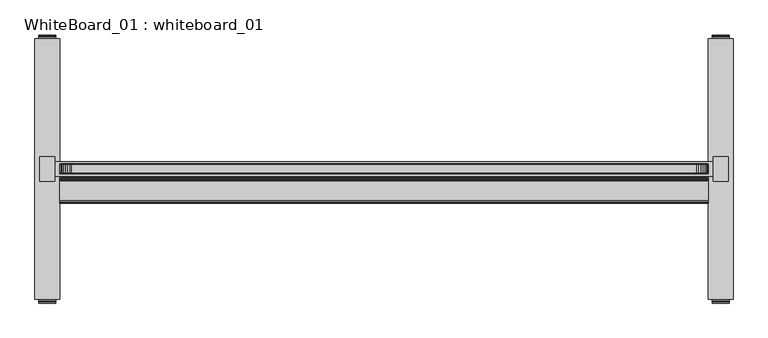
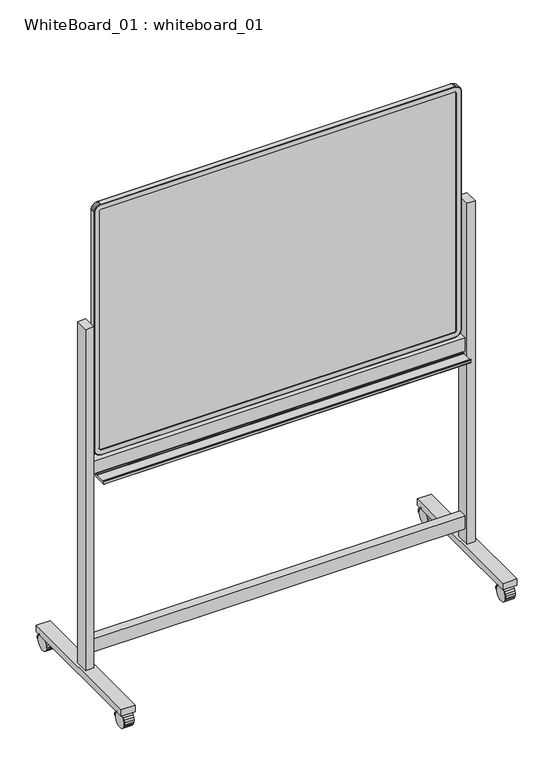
"""IFC4 building model written with IfcOpenShell, lengths in millimetres: proxy geometry, WhiteBoard_01 : whiteboard_01."""

import ifcopenshell
import ifcopenshell.guid

model = None  # the IFC model being written
_history = None  # IfcOwnerHistory: only IFC2X3 demands one
_inside = {}  # id of a spatial element -> (the spatial element, [elements in it])
_under = {}  # id of a project, library or spatial element -> (it, [spatial elements below it])
_declared = {}  # id of a project -> (the project, [libraries it declares])
_typed = {}  # id of a type object -> (the type object, [elements of that type])
_made_of = {}  # id of a material, layer set ... -> (it, [elements and type objects made of it])


def new_model(schema):
    """Start an empty IFC model of exactly this schema.

    Asked for "IFC4X3", IfcOpenShell would pick the latest addendum, in which some entities
    have other attributes; the version numbers below select the first issue.
    IFC2X3 requires an IfcOwnerHistory on every rooted entity: one is made here for all.
    """
    global model, _history
    if schema == "IFC4X3":
        model = ifcopenshell.file(schema_version=(4, 3, 0, 0))
    else:
        model = ifcopenshell.file(schema=schema)
    _inside.clear()
    _under.clear()
    _declared.clear()
    _typed.clear()
    _made_of.clear()
    _history = None
    if model.schema == "IFC2X3":
        org = make("IfcOrganization", Name="unknown")
        user = make(
            "IfcPersonAndOrganization",
            ThePerson=make("IfcPerson", FamilyName="unknown"),
            TheOrganization=org,
        )
        app = make(
            "IfcApplication",
            ApplicationDeveloper=org,
            Version="unknown",
            ApplicationFullName="unknown",
            ApplicationIdentifier="unknown",
        )
        _history = make(
            "IfcOwnerHistory",
            OwningUser=user,
            OwningApplication=app,
            ChangeAction="ADDED",
            CreationDate=0,
        )
    return model


def make(cls, **values):
    """One entity of the class cls with the attributes given. An attribute that is None is left unset."""
    return model.create_entity(
        cls, **{name: value for name, value in values.items() if value is not None}
    )


def rooted(cls, **values):
    """An entity with a GlobalId (a new one), such as an element, a storey or a relation."""
    return make(cls, GlobalId=ifcopenshell.guid.new(), OwnerHistory=_history, **values)


def si_unit(unit_type, name, prefix=None):
    """IfcSIUnit, for example si_unit("LENGTHUNIT", "METRE", prefix="MILLI")."""
    return make("IfcSIUnit", UnitType=unit_type, Prefix=prefix, Name=name)


def assignment(units):
    """IfcUnitAssignment: the units of a project."""
    return None if units is None else make("IfcUnitAssignment", Units=units)


def point(xyz):
    """IfcCartesianPoint."""
    return None if xyz is None else make("IfcCartesianPoint", Coordinates=xyz)


def direction(xyz):
    """IfcDirection."""
    return None if xyz is None else make("IfcDirection", DirectionRatios=xyz)


def frame(location, z_axis=None, x_axis=None):
    """IfcAxis2Placement3D, a coordinate frame: its origin and axes. An axis left out is left unset."""
    return make(
        "IfcAxis2Placement3D",
        Location=point(location),
        Axis=direction(z_axis),
        RefDirection=direction(x_axis),
    )


def origin():
    """The frame at (0, 0, 0) with its axes left unset."""
    return frame((0.0, 0.0, 0.0))


def place(relative_to, where):
    """IfcLocalPlacement: puts the frame where relative to a parent placement (None: the world)."""
    return make(
        "IfcLocalPlacement", PlacementRelTo=relative_to, RelativePlacement=where
    )


def context(
    kind, dimensions, precision=None, world=None, true_north=None, identifier=None
):
    """IfcGeometricRepresentationContext, for example the 3D "Model" context."""
    return make(
        "IfcGeometricRepresentationContext",
        ContextIdentifier=identifier,
        ContextType=kind,
        CoordinateSpaceDimension=dimensions,
        Precision=precision,
        WorldCoordinateSystem=world,
        TrueNorth=true_north,
    )


def project(units=None, contexts=None):
    """IfcProject with its units and contexts."""
    return rooted(
        "IfcProject",
        Name="project",
        RepresentationContexts=contexts,
        UnitsInContext=assignment(units),
    )


def spatial(cls, under=None, at=None, **own):
    """A site, building, storey or space (cls), placed at a placement, below another one or the project."""
    s = rooted(cls, ObjectPlacement=at, **own)
    if under is not None:
        _under.setdefault(under.id(), (under, []))[1].append(s)
    return s


def polyline(points):
    """IfcPolyline through the points."""
    return make("IfcPolyline", Points=[point(p) for p in points])


def outline(outer, holes=None, kind="AREA"):
    """IfcArbitraryClosedProfileDef: a profile drawn as a closed curve; with holes, ...WithVoids."""
    if holes is None:
        return make("IfcArbitraryClosedProfileDef", ProfileType=kind, OuterCurve=outer)
    return make(
        "IfcArbitraryProfileDefWithVoids",
        ProfileType=kind,
        OuterCurve=outer,
        InnerCurves=holes,
    )


def extrude(swept, where, along, depth):
    """IfcExtrudedAreaSolid: the profile swept, set in the frame where, extruded along a direction by depth."""
    return make(
        "IfcExtrudedAreaSolid",
        SweptArea=swept,
        Position=where,
        ExtrudedDirection=direction(along),
        Depth=depth,
    )


def faces_of(points, faces, orient=None, outer=None):
    """IfcFace entities. A face is a list of loops; a loop is a list of indices into points, from 0.

    orient and outer hold one flag for each loop. By default every Orientation is true, the
    first loop of a face is its IfcFaceOuterBound and the others are IfcFaceBound.
    """
    made = []
    for i, loops in enumerate(faces):
        bounds = []
        for j, loop in enumerate(loops):
            is_outer = j == 0 if outer is None else outer[i][j]
            bounds.append(
                make(
                    "IfcFaceOuterBound" if is_outer else "IfcFaceBound",
                    Bound=make("IfcPolyLoop", Polygon=[points[k] for k in loop]),
                    Orientation=True if orient is None else orient[i][j],
                )
            )
        made.append(make("IfcFace", Bounds=bounds))
    return made


def faceted_brep(points, faces, orient=None, outer=None, voids=None):
    """IfcFacetedBrep: a solid bounded by flat faces; with voids (closed shells), ...WithVoids."""
    shared = [point(p) for p in points]
    hull = make("IfcClosedShell", CfsFaces=faces_of(shared, faces, orient, outer))
    if voids is None:
        return make("IfcFacetedBrep", Outer=hull)
    return make(
        "IfcFacetedBrepWithVoids",
        Outer=hull,
        Voids=[
            make(cls, CfsFaces=faces_of(shared, fs, o, b)) for cls, fs, o, b in voids
        ],
    )


def shape(context_of_items, identifier, shape_type, items):
    """IfcShapeRepresentation: the items that make up one representation, for example the "Body"."""
    return make(
        "IfcShapeRepresentation",
        ContextOfItems=context_of_items,
        RepresentationIdentifier=identifier,
        RepresentationType=shape_type,
        Items=items,
    )


def source(mapping_origin, context_of_items, identifier, shape_type, items):
    """IfcRepresentationMap: a shape defined once, which mapped items show again and again."""
    return make(
        "IfcRepresentationMap",
        MappingOrigin=mapping_origin,
        MappedRepresentation=shape(context_of_items, identifier, shape_type, items),
    )


def transform(
    local_origin,
    x_axis=None,
    y_axis=None,
    z_axis=None,
    scale=None,
    scale2=None,
    scale3=None,
    uniform=True,
):
    """IfcCartesianTransformationOperator3D, or its non-uniform kind. x_axis, y_axis, z_axis: its Axis1, 2, 3."""
    if uniform:
        return make(
            "IfcCartesianTransformationOperator3D",
            Axis1=direction(x_axis),
            Axis2=direction(y_axis),
            LocalOrigin=point(local_origin),
            Scale=scale,
            Axis3=direction(z_axis),
        )
    return make(
        "IfcCartesianTransformationOperator3DnonUniform",
        Axis1=direction(x_axis),
        Axis2=direction(y_axis),
        LocalOrigin=point(local_origin),
        Scale=scale,
        Axis3=direction(z_axis),
        Scale2=scale2,
        Scale3=scale3,
    )


def mapped(mapping_source, mapping_target):
    """IfcMappedItem: shows the shape of a source again, moved by a transform."""
    return make(
        "IfcMappedItem", MappingSource=mapping_source, MappingTarget=mapping_target
    )


def made_of(thing, what):
    """Note that an element or type object is made of a material, layer set ...; save() writes the relation."""
    if what is not None:
        _made_of.setdefault(what.id(), (what, []))[1].append(thing)
    return thing


def element(
    cls,
    number,
    at=None,
    inside=None,
    cuts=None,
    type_object=None,
    material=None,
    context=None,
    identifier="Body",
    shape_type=None,
    held_by="IfcProductDefinitionShape",
    body=None,
    shapes=None,
    **own,
):
    """One element of the class cls, such as IfcWall. Its Tag is "e" and its number.

    at: its placement. inside: the storey or other place that contains it. cuts: it is an
    opening in that element (IfcRelVoidsElement). A single representation is given by context,
    identifier, shape_type and body (its items); several are given by shapes. held_by: the class
    of the entity that holds the representations. save() writes the other relations.
    """
    e = rooted(cls, Tag="e%d" % number, ObjectPlacement=at, **own)
    if body is not None:
        shapes = [shape(context, identifier, shape_type, body)]
    if shapes is not None:
        e.Representation = make(held_by, Representations=shapes)
    if inside is not None:
        _inside.setdefault(inside.id(), (inside, []))[1].append(e)
    if cuts is not None:
        rooted(
            "IfcRelVoidsElement", RelatingBuildingElement=cuts, RelatedOpeningElement=e
        )
    if type_object is not None:
        _typed.setdefault(type_object.id(), (type_object, []))[1].append(e)
    return made_of(e, material)


def aggregate(whole, parts):
    """IfcRelAggregates: a whole, such as a stair, and the parts it consists of."""
    return rooted("IfcRelAggregates", RelatingObject=whole, RelatedObjects=parts)


def save(model, path):
    """Write the relations noted so far, then the file.

    IfcRelAggregates (storeys below a building ...), IfcRelContainedInSpatialStructure (elements
    in a storey), IfcRelDefinesByType, IfcRelAssociatesMaterial and IfcRelDeclares: one each for
    every whole, place, type object, material and project.
    """
    for whole, parts in _under.values():
        aggregate(whole, parts)
    for where, things in _inside.values():
        rooted(
            "IfcRelContainedInSpatialStructure",
            RelatedElements=things,
            RelatingStructure=where,
        )
    for kind, things in _typed.values():
        rooted("IfcRelDefinesByType", RelatedObjects=things, RelatingType=kind)
    for what, things in _made_of.values():
        rooted("IfcRelAssociatesMaterial", RelatedObjects=things, RelatingMaterial=what)
    for by, libraries in _declared.values():
        rooted("IfcRelDeclares", RelatingContext=by, RelatedDefinitions=libraries)
    model.write(path)


def whiteboard_01_whiteboard_01_52306a3d(model_context):
    return source(origin(), model_context, "Body", "SolidModel", [
        extrude(outline(polyline([(627.0, -7.3998171), (-627.0, -7.3998171), (-627.0, 7.4001789), (627.0, 7.4001789), (627.0, -7.3998171)])), frame((0.0, 0.0, 870.0), z_axis=(0.0, 0.0, 1.0), x_axis=(1.0, 0.0, 0.0)), (0.0, 0.0, 1.0), 894.0),
        faceted_brep([(626.2518311, -9.9999201, 1756.7248068), (626.2518311, 9.9999201, 1756.7248068), (626.2518311, 9.9999201, 876.7054452), (626.2518311, -9.9999201, 876.7054452), (644.8727526, -9.7069884, 1757.6394986), (643.9884553, -9.9999201, 1757.5960604), (643.9884553, -9.9999201, 875.8341917), (644.8727526, -9.7069884, 875.7907535), (645.2386475, -8.9999726, 1757.657472), (645.2386475, -8.9999726, 875.7727801), (645.2386475, 8.9999726, 1757.657472), (645.2386475, 8.9999726, 875.7727801), (644.8727526, 9.7069884, 1757.6394986), (644.8727526, 9.7069884, 875.7907535), (643.9884553, 9.9999201, 1757.5960604), (643.9884553, 9.9999201, 875.8341917), (620.0012361, -9.9999201, 870.4566193), (620.0012361, 9.9999201, 870.4566193), (-620.0012361, 9.9999201, 870.4566193), (-620.0012361, -9.9999201, 870.4566193), (620.916285, -9.7069884, 851.8356977), (620.8728299, -9.9999201, 852.719995), (-620.8728299, -9.9999201, 852.719995), (-620.916285, -9.7069884, 851.8356977), (620.9342654, -8.9999726, 851.4698029), (-620.9342654, -8.9999726, 851.4698029), (620.9342654, 8.9999726, 851.4698029), (-620.9342654, 8.9999726, 851.4698029), (620.916285, 9.7069884, 851.8356977), (-620.916285, 9.7069884, 851.8356977), (620.8728299, 9.9999201, 852.719995), (-620.8728299, 9.9999201, 852.719995), (-626.2498474, -9.9999201, 876.6853029), (-626.2498474, 9.9999201, 876.6853029), (-626.2498474, 9.9999201, 1756.7449492), (-626.2498474, -9.9999201, 1756.7449492), (-644.870769, -9.7069884, 875.7706111), (-643.9864717, -9.9999201, 875.8140493), (-643.9864717, -9.9999201, 1757.6162028), (-644.870769, -9.7069884, 1757.659641), (-645.2366638, -8.9999726, 875.7526377), (-645.2366638, -8.9999726, 1757.6776143), (-645.2366638, 8.9999726, 875.7526377), (-645.2366638, 8.9999726, 1757.6776143), (-644.870769, 9.7069884, 875.7706111), (-644.870769, 9.7069884, 1757.659641), (-643.9864717, 9.9999201, 875.8140493), (-643.9864717, 9.9999201, 1757.6162028), (-620.137531, -9.9999201, 1762.9602051), (-620.137531, 9.9999201, 1762.9602051), (620.137531, 9.9999201, 1762.9602051), (620.137531, -9.9999201, 1762.9602051), (-621.0525799, -9.7069884, 1781.5811266), (-621.0091248, -9.9999201, 1780.6968293), (621.0091248, -9.9999201, 1780.6968293), (621.0525799, -9.7069884, 1781.5811266), (-621.0705603, -8.9999726, 1781.9470215), (621.0705603, -8.9999726, 1781.9470215), (-621.0705603, 8.9999726, 1781.9470215), (621.0705603, 8.9999726, 1781.9470215), (-621.0525799, 9.7069884, 1781.5811266), (621.0525799, 9.7069884, 1781.5811266), (-621.0091248, 9.9999201, 1780.6968293), (621.0091248, 9.9999201, 1780.6968293), (621.2216949, 9.9999201, 1762.8533936), (621.2216949, -9.9999201, 1762.8533936), (624.698271, -9.9999201, 1780.3333757), (624.8716031, -9.7069884, 1781.2048776), (624.9433226, -8.9999726, 1781.565478), (624.9433226, 8.9999726, 1781.565478), (624.8716031, 9.7069884, 1781.2048776), (624.698271, 9.9999201, 1780.3333757), (622.3940277, 9.9999201, 1762.4978638), (622.3940277, -9.9999201, 1762.4978638), (629.2149914, -9.9999201, 1778.9636036), (629.5550651, -9.7069884, 1779.7845383), (629.6957771, -8.9999726, 1780.1242156), (629.6957771, 8.9999726, 1780.1242156), (629.5550651, 9.7069884, 1779.7845383), (629.2149914, 9.9999201, 1778.9636036), (623.4744644, 9.9999201, 1761.920166), (623.4744644, -9.9999201, 1761.920166), (633.3760249, -9.9999201, 1776.7387443), (633.8696883, -9.7069884, 1777.4775562), (634.073951, -8.9999726, 1777.7832537), (634.073951, 8.9999726, 1777.7832537), (633.8696883, 9.7069884, 1777.4775562), (633.3760249, 9.9999201, 1776.7387443), (624.421463, 9.9999201, 1761.1431885), (624.421463, -9.9999201, 1761.1431885), (637.0239514, -9.9999201, 1773.7457547), (637.6522754, -9.7069884, 1774.3740826), (637.9122564, -8.9999726, 1774.6340652), (637.9122564, 8.9999726, 1774.6340652), (637.6522754, 9.7069884, 1774.3740826), (637.0239514, 9.9999201, 1773.7457547), (625.1986694, 9.9999201, 1760.1959229), (625.1986694, -9.9999201, 1760.1959229), (640.0175953, -9.9999201, 1770.0970767), (640.7564245, -9.7069884, 1770.5907198), (641.0621292, -8.9999726, 1770.7949741), (641.0621292, 8.9999726, 1770.7949741), (640.7564245, 9.7069884, 1770.5907198), (640.0175953, 9.9999201, 1770.0970767), (625.7762146, 9.9999201, 1759.1156006), (625.7762146, -9.9999201, 1759.1156006), (642.2417212, -9.9999201, 1765.9367566), (643.0626442, -9.7069884, 1766.2768399), (643.4023168, -8.9999726, 1766.4175559), (643.4023168, 8.9999726, 1766.4175559), (643.0626442, 9.7069884, 1766.2768399), (642.2417212, 9.9999201, 1765.9367566), (626.1318207, 9.9999201, 1757.9434204), (626.1318207, -9.9999201, 1757.9434204), (643.6118182, -9.9999201, 1761.4205218), (644.4833209, -9.7069884, 1761.5938801), (644.8439217, -8.9999726, 1761.6656104), (644.8439217, 8.9999726, 1761.6656104), (644.4833209, 9.7069884, 1761.5938801), (643.6118182, 9.9999201, 1761.4205218), (626.1318207, 9.9999201, 875.4868317), (626.1318207, -9.9999201, 875.4868317), (643.6118182, -9.9999201, 872.0097303), (644.4833209, -9.7069884, 871.836372), (644.8439217, -8.9999726, 871.7646417), (644.8439217, 8.9999726, 871.7646417), (644.4833209, 9.7069884, 871.836372), (643.6118182, 9.9999201, 872.0097303), (625.7762146, 9.9999201, 874.3146515), (625.7762146, -9.9999201, 874.3146515), (642.2417212, -9.9999201, 867.4934954), (643.0626442, -9.7069884, 867.1534121), (643.4023168, -8.9999726, 867.0126962), (643.4023168, 8.9999726, 867.0126962), (643.0626442, 9.7069884, 867.1534121), (642.2417212, 9.9999201, 867.4934954), (625.1986694, 9.9999201, 873.2343292), (625.1986694, -9.9999201, 873.2343292), (640.0175953, -9.9999201, 863.3331754), (640.7564245, -9.7069884, 862.8395322), (641.0621292, -8.9999726, 862.635278), (641.0621292, 8.9999726, 862.635278), (640.7564245, 9.7069884, 862.8395322), (640.0175953, 9.9999201, 863.3331754), (624.421463, 9.9999201, 872.2870636), (624.421463, -9.9999201, 872.2870636), (637.0239514, -9.9999201, 859.6844974), (637.6522754, -9.7069884, 859.0561695), (637.9122564, -8.9999726, 858.7961869), (637.9122564, 8.9999726, 858.7961869), (637.6522754, 9.7069884, 859.0561695), (637.0239514, 9.9999201, 859.6844974), (623.4744644, 9.9999201, 871.5100861), (623.4744644, -9.9999201, 871.5100861), (633.3760249, -9.9999201, 856.6915078), (633.8696883, -9.7069884, 855.9526959), (634.073951, -8.9999726, 855.6469984), (634.073951, 8.9999726, 855.6469984), (633.8696883, 9.7069884, 855.9526959), (633.3760249, 9.9999201, 856.6915078), (622.3940277, 9.9999201, 870.9323883), (622.3940277, -9.9999201, 870.9323883), (629.2149914, -9.9999201, 854.4666484), (629.5550651, -9.7069884, 853.6457138), (629.6957771, -8.9999726, 853.3060364), (629.6957771, 8.9999726, 853.3060364), (629.5550651, 9.7069884, 853.6457138), (629.2149914, 9.9999201, 854.4666484), (621.2216949, 9.9999201, 870.5768585), (621.2216949, -9.9999201, 870.5768585), (624.698271, -9.9999201, 853.0968764), (624.8716031, -9.7069884, 852.2253745), (624.9433226, -8.9999726, 851.864774), (624.9433226, 8.9999726, 851.864774), (624.8716031, 9.7069884, 852.2253745), (624.698271, 9.9999201, 853.0968764), (-621.2216949, 9.9999201, 870.5768585), (-621.2216949, -9.9999201, 870.5768585), (-624.698271, -9.9999201, 853.0968764), (-624.8716031, -9.7069884, 852.2253745), (-624.9433226, -8.9999726, 851.864774), (-624.9433226, 8.9999726, 851.864774), (-624.8716031, 9.7069884, 852.2253745), (-624.698271, 9.9999201, 853.0968764), (-622.3940277, 9.9999201, 870.9323883), (-622.3940277, -9.9999201, 870.9323883), (-629.2149914, -9.9999201, 854.4666484), (-629.5550651, -9.7069884, 853.6457138), (-629.6957771, -8.9999726, 853.3060364), (-629.6957771, 8.9999726, 853.3060364), (-629.5550651, 9.7069884, 853.6457138), (-629.2149914, 9.9999201, 854.4666484), (-623.4744644, 9.9999201, 871.5100861), (-623.4744644, -9.9999201, 871.5100861), (-633.3760249, -9.9999201, 856.6915078), (-633.8696883, -9.7069884, 855.9526959), (-634.073951, -8.9999726, 855.6469984), (-634.073951, 8.9999726, 855.6469984), (-633.8696883, 9.7069884, 855.9526959), (-633.3760249, 9.9999201, 856.6915078), (-624.421463, 9.9999201, 872.2870636), (-624.421463, -9.9999201, 872.2870636), (-637.0239514, -9.9999201, 859.6844974), (-637.6522754, -9.7069884, 859.0561695), (-637.9122564, -8.9999726, 858.7961869), (-637.9122564, 8.9999726, 858.7961869), (-637.6522754, 9.7069884, 859.0561695), (-637.0239514, 9.9999201, 859.6844974), (-625.1986694, 9.9999201, 873.2343292), (-625.1986694, -9.9999201, 873.2343292), (-640.0175953, -9.9999201, 863.3331754), (-640.7564245, -9.7069884, 862.8395322), (-641.0621292, -8.9999726, 862.635278), (-641.0621292, 8.9999726, 862.635278), (-640.7564245, 9.7069884, 862.8395322), (-640.0175953, 9.9999201, 863.3331754), (-625.7762146, 9.9999201, 874.3146515), (-625.7762146, -9.9999201, 874.3146515), (-642.2417212, -9.9999201, 867.4934954), (-643.0626442, -9.7069884, 867.1534121), (-643.4023168, -8.9999726, 867.0126962), (-643.4023168, 8.9999726, 867.0126962), (-643.0626442, 9.7069884, 867.1534121), (-642.2417212, 9.9999201, 867.4934954), (-626.1318207, 9.9999201, 875.4868317), (-626.1318207, -9.9999201, 875.4868317), (-643.6118182, -9.9999201, 872.0097303), (-644.4833209, -9.7069884, 871.836372), (-644.8439217, -8.9999726, 871.7646417), (-644.8439217, 8.9999726, 871.7646417), (-644.4833209, 9.7069884, 871.836372), (-643.6118182, 9.9999201, 872.0097303), (-626.1318207, 9.9999201, 1757.9434204), (-626.1318207, -9.9999201, 1757.9434204), (-643.6118182, -9.9999201, 1761.4205218), (-644.4833209, -9.7069884, 1761.5938801), (-644.8439217, -8.9999726, 1761.6656104), (-644.8439217, 8.9999726, 1761.6656104), (-644.4833209, 9.7069884, 1761.5938801), (-643.6118182, 9.9999201, 1761.4205218), (-625.7762146, 9.9999201, 1759.1156006), (-625.7762146, -9.9999201, 1759.1156006), (-642.2417212, -9.9999201, 1765.9367566), (-643.0626442, -9.7069884, 1766.2768399), (-643.4023168, -8.9999726, 1766.4175559), (-643.4023168, 8.9999726, 1766.4175559), (-643.0626442, 9.7069884, 1766.2768399), (-642.2417212, 9.9999201, 1765.9367566), (-625.1986694, 9.9999201, 1760.1959229), (-625.1986694, -9.9999201, 1760.1959229), (-640.0175953, -9.9999201, 1770.0970767), (-640.7564245, -9.7069884, 1770.5907198), (-641.0621292, -8.9999726, 1770.7949741), (-641.0621292, 8.9999726, 1770.7949741), (-640.7564245, 9.7069884, 1770.5907198), (-640.0175953, 9.9999201, 1770.0970767), (-624.421463, 9.9999201, 1761.1431885), (-624.421463, -9.9999201, 1761.1431885), (-637.0239514, -9.9999201, 1773.7457547), (-637.6522754, -9.7069884, 1774.3740826), (-637.9122564, -8.9999726, 1774.6340652), (-637.9122564, 8.9999726, 1774.6340652), (-637.6522754, 9.7069884, 1774.3740826), (-637.0239514, 9.9999201, 1773.7457547), (-623.4744644, 9.9999201, 1761.920166), (-623.4744644, -9.9999201, 1761.920166), (-633.3760249, -9.9999201, 1776.7387443), (-633.8696883, -9.7069884, 1777.4775562), (-634.073951, -8.9999726, 1777.7832537), (-634.073951, 8.9999726, 1777.7832537), (-633.8696883, 9.7069884, 1777.4775562), (-633.3760249, 9.9999201, 1776.7387443), (-622.3940277, 9.9999201, 1762.4978638), (-622.3940277, -9.9999201, 1762.4978638), (-629.2149914, -9.9999201, 1778.9636036), (-629.5550651, -9.7069884, 1779.7845383), (-629.6957771, -8.9999726, 1780.1242156), (-629.6957771, 8.9999726, 1780.1242156), (-629.5550651, 9.7069884, 1779.7845383), (-629.2149914, 9.9999201, 1778.9636036), (-621.2216949, 9.9999201, 1762.8533936), (-621.2216949, -9.9999201, 1762.8533936), (-624.698271, -9.9999201, 1780.3333757), (-624.8716031, -9.7069884, 1781.2048776), (-624.9433226, -8.9999726, 1781.565478), (-624.9433226, 8.9999726, 1781.565478), (-624.8716031, 9.7069884, 1781.2048776), (-624.698271, 9.9999201, 1780.3333757)], [[[0, 1, 2, 3]], [[4, 5, 6, 7]], [[8, 4, 7, 9]], [[10, 8, 9, 11]], [[12, 10, 11, 13]], [[14, 12, 13, 15]], [[16, 17, 18, 19]], [[20, 21, 22, 23]], [[24, 20, 23, 25]], [[26, 24, 25, 27]], [[28, 26, 27, 29]], [[30, 28, 29, 31]], [[32, 33, 34, 35]], [[36, 37, 38, 39]], [[40, 36, 39, 41]], [[42, 40, 41, 43]], [[44, 42, 43, 45]], [[46, 44, 45, 47]], [[48, 49, 50, 51]], [[52, 53, 54, 55]], [[56, 52, 55, 57]], [[58, 56, 57, 59]], [[60, 58, 59, 61]], [[62, 60, 61, 63]], [[51, 50, 64, 65]], [[55, 54, 66, 67]], [[57, 55, 67, 68]], [[59, 57, 68, 69]], [[61, 59, 69, 70]], [[63, 61, 70, 71]], [[65, 64, 72, 73]], [[67, 66, 74, 75]], [[68, 67, 75, 76]], [[69, 68, 76, 77]], [[70, 69, 77, 78]], [[71, 70, 78, 79]], [[73, 72, 80, 81]], [[75, 74, 82, 83]], [[76, 75, 83, 84]], [[77, 76, 84, 85]], [[78, 77, 85, 86]], [[79, 78, 86, 87]], [[81, 80, 88, 89]], [[83, 82, 90, 91]], [[84, 83, 91, 92]], [[85, 84, 92, 93]], [[86, 85, 93, 94]], [[87, 86, 94, 95]], [[89, 88, 96, 97]], [[91, 90, 98, 99]], [[92, 91, 99, 100]], [[93, 92, 100, 101]], [[94, 93, 101, 102]], [[95, 94, 102, 103]], [[97, 96, 104, 105]], [[99, 98, 106, 107]], [[100, 99, 107, 108]], [[101, 100, 108, 109]], [[102, 101, 109, 110]], [[103, 102, 110, 111]], [[105, 104, 112, 113]], [[107, 106, 114, 115]], [[108, 107, 115, 116]], [[109, 108, 116, 117]], [[110, 109, 117, 118]], [[111, 110, 118, 119]], [[113, 112, 1, 0]], [[115, 114, 5, 4]], [[116, 115, 4, 8]], [[117, 116, 8, 10]], [[118, 117, 10, 12]], [[119, 118, 12, 14]], [[3, 2, 120, 121]], [[7, 6, 122, 123]], [[9, 7, 123, 124]], [[11, 9, 124, 125]], [[13, 11, 125, 126]], [[15, 13, 126, 127]], [[121, 120, 128, 129]], [[123, 122, 130, 131]], [[124, 123, 131, 132]], [[125, 124, 132, 133]], [[126, 125, 133, 134]], [[127, 126, 134, 135]], [[129, 128, 136, 137]], [[131, 130, 138, 139]], [[132, 131, 139, 140]], [[133, 132, 140, 141]], [[134, 133, 141, 142]], [[135, 134, 142, 143]], [[137, 136, 144, 145]], [[139, 138, 146, 147]], [[140, 139, 147, 148]], [[141, 140, 148, 149]], [[142, 141, 149, 150]], [[143, 142, 150, 151]], [[145, 144, 152, 153]], [[147, 146, 154, 155]], [[148, 147, 155, 156]], [[149, 148, 156, 157]], [[150, 149, 157, 158]], [[151, 150, 158, 159]], [[153, 152, 160, 161]], [[155, 154, 162, 163]], [[156, 155, 163, 164]], [[157, 156, 164, 165]], [[158, 157, 165, 166]], [[159, 158, 166, 167]], [[161, 160, 168, 169]], [[163, 162, 170, 171]], [[164, 163, 171, 172]], [[165, 164, 172, 173]], [[166, 165, 173, 174]], [[167, 166, 174, 175]], [[169, 168, 17, 16]], [[171, 170, 21, 20]], [[172, 171, 20, 24]], [[173, 172, 24, 26]], [[174, 173, 26, 28]], [[175, 174, 28, 30]], [[19, 18, 176, 177]], [[23, 22, 178, 179]], [[25, 23, 179, 180]], [[27, 25, 180, 181]], [[29, 27, 181, 182]], [[31, 29, 182, 183]], [[177, 176, 184, 185]], [[179, 178, 186, 187]], [[180, 179, 187, 188]], [[181, 180, 188, 189]], [[182, 181, 189, 190]], [[183, 182, 190, 191]], [[185, 184, 192, 193]], [[187, 186, 194, 195]], [[188, 187, 195, 196]], [[189, 188, 196, 197]], [[190, 189, 197, 198]], [[191, 190, 198, 199]], [[193, 192, 200, 201]], [[195, 194, 202, 203]], [[196, 195, 203, 204]], [[197, 196, 204, 205]], [[198, 197, 205, 206]], [[199, 198, 206, 207]], [[201, 200, 208, 209]], [[203, 202, 210, 211]], [[204, 203, 211, 212]], [[205, 204, 212, 213]], [[206, 205, 213, 214]], [[207, 206, 214, 215]], [[209, 208, 216, 217]], [[211, 210, 218, 219]], [[212, 211, 219, 220]], [[213, 212, 220, 221]], [[214, 213, 221, 222]], [[215, 214, 222, 223]], [[217, 216, 224, 225]], [[219, 218, 226, 227]], [[220, 219, 227, 228]], [[221, 220, 228, 229]], [[222, 221, 229, 230]], [[223, 222, 230, 231]], [[225, 224, 33, 32]], [[227, 226, 37, 36]], [[228, 227, 36, 40]], [[229, 228, 40, 42]], [[230, 229, 42, 44]], [[231, 230, 44, 46]], [[35, 34, 232, 233]], [[39, 38, 234, 235]], [[41, 39, 235, 236]], [[43, 41, 236, 237]], [[45, 43, 237, 238]], [[47, 45, 238, 239]], [[233, 232, 240, 241]], [[235, 234, 242, 243]], [[236, 235, 243, 244]], [[237, 236, 244, 245]], [[238, 237, 245, 246]], [[239, 238, 246, 247]], [[241, 240, 248, 249]], [[243, 242, 250, 251]], [[244, 243, 251, 252]], [[245, 244, 252, 253]], [[246, 245, 253, 254]], [[247, 246, 254, 255]], [[249, 248, 256, 257]], [[251, 250, 258, 259]], [[252, 251, 259, 260]], [[253, 252, 260, 261]], [[254, 253, 261, 262]], [[255, 254, 262, 263]], [[257, 256, 264, 265]], [[259, 258, 266, 267]], [[260, 259, 267, 268]], [[261, 260, 268, 269]], [[262, 261, 269, 270]], [[263, 262, 270, 271]], [[265, 264, 272, 273]], [[267, 266, 274, 275]], [[268, 267, 275, 276]], [[269, 268, 276, 277]], [[270, 269, 277, 278]], [[271, 270, 278, 279]], [[273, 272, 280, 281]], [[275, 274, 282, 283]], [[276, 275, 283, 284]], [[277, 276, 284, 285]], [[278, 277, 285, 286]], [[279, 278, 286, 287]], [[281, 280, 49, 48]], [[53, 282, 274, 266, 258, 250, 242, 234, 38, 37, 226, 218, 210, 202, 194, 186, 178, 22, 21, 170, 162, 154, 146, 138, 130, 122, 6, 5, 114, 106, 98, 90, 82, 74, 66, 54], [265, 273, 281, 48, 51, 65, 73, 81, 89, 97, 105, 113, 0, 3, 121, 129, 137, 145, 153, 161, 169, 16, 19, 177, 185, 193, 201, 209, 217, 225, 32, 35, 233, 241, 249, 257]], [[283, 282, 53, 52]], [[284, 283, 52, 56]], [[285, 284, 56, 58]], [[286, 285, 58, 60]], [[287, 286, 60, 62]], [[271, 279, 287, 62, 63, 71, 79, 87, 95, 103, 111, 119, 14, 15, 127, 135, 143, 151, 159, 167, 175, 30, 31, 183, 191, 199, 207, 215, 223, 231, 46, 47, 239, 247, 255, 263], [49, 280, 272, 264, 256, 248, 240, 232, 34, 33, 224, 216, 208, 200, 192, 184, 176, 18, 17, 168, 160, 152, 144, 136, 128, 120, 2, 1, 112, 104, 96, 88, 80, 72, 64, 50]]]),
        extrude(outline(polyline([(684.4999695, 24.5001531), (684.4999695, -24.9998391), (655.4998779, -24.9998391), (655.4998779, 24.5001531), (684.4999695, 24.5001531)])), frame((0.0, 0.0, 81.7445183), z_axis=(0.0, 0.0, 1.0), x_axis=(1.0, 0.0, 0.0)), (0.0, 0.0, 1.0), 1265.5000496),
        extrude(outline(polyline([(-684.4999695, 24.5001531), (-655.4998779, 24.5001531), (-655.4998779, -24.9998391), (-684.4999695, -24.9998391), (-684.4999695, 24.5001531)])), frame((0.0, 0.0, 81.7445183), z_axis=(0.0, 0.0, 1.0), x_axis=(1.0, 0.0, 0.0)), (0.0, 0.0, 1.0), 1265.5000496),
        extrude(outline(polyline([(-19.7846854, 784.5305634), (-65.7649469, 784.5305634), (-67.1861124, 785.1194), (-67.7747965, 786.5406036), (-67.7747965, 794.5807648), (-67.0426416, 796.3488007), (-65.2747965, 797.0809937), (-63.5069513, 796.3488007), (-62.7747965, 794.5807648), (-62.7747965, 792.8308868), (-62.0248652, 792.0809174), (-23.5247302, 792.0809174), (-22.7747989, 792.8308868), (-22.7747989, 794.5807648), (-22.042644, 796.3488007), (-20.2747989, 797.0809937), (-18.5069525, 796.3488007), (-17.7747977, 794.5807648), (-17.7747977, 786.5406036), (-18.3634818, 785.1194), (-19.7846854, 784.5305634)])), frame((-644.9999237, 0.0, 0.0), z_axis=(1.0, 0.0, 0.0), x_axis=(0.0, 1.0, 0.0)), (0.0, 0.0, 1.0), 1289.9998474),
        extrude(outline(polyline([(655.0, 14.5002067), (655.0, -14.4998968), (-655.0, -14.4998968), (-655.0, 14.5002067), (655.0, 14.5002067)])), frame((0.0, 0.0, 792.2081757), z_axis=(0.0, 0.0, 1.0), x_axis=(1.0, 0.0, 0.0)), (0.0, 0.0, 1.0), 49.0000916),
        extrude(outline(polyline([(655.0, 14.5002067), (655.0, -14.4998968), (-655.0, -14.4998968), (-655.0, 14.5002067), (655.0, 14.5002067)])), frame((0.0, 0.0, 132.744379), z_axis=(0.0, 0.0, 1.0), x_axis=(1.0, 0.0, 0.0)), (0.0, 0.0, 1.0), 49.0001011),
        extrude(outline(polyline([(206.8230053, 34.7678423), (209.8573875, 42.0934289), (214.6845054, 48.3842303), (220.9747505, 53.2110596), (228.3003426, 56.2454128), (236.1616707, 57.280364), (244.0229988, 56.2453842), (251.3482857, 53.2110882), (257.6389503, 48.3841467), (262.4659348, 42.0935535), (265.5002975, 34.7679758), (266.5352058, 27.1661568), (264.563961, 26.9066858), (263.5962105, 34.2578077), (260.7588005, 41.1079311), (256.245079, 46.9902611), (250.3626633, 51.5039396), (243.5128021, 54.3413162), (236.1616707, 55.309124), (228.8105202, 54.3413353), (221.9603729, 51.5039206), (216.0783957, 46.990359), (211.5645218, 41.1078065), (208.7270933, 34.257636), (207.7593687, 26.9067353), (205.7881242, 27.1662777), (206.8230053, 34.7678423)])), frame((-686.727829, 0.0, 0.0), z_axis=(1.0, 0.0, 0.0), x_axis=(0.0, 1.0, 0.0)), (0.0, 0.0, 1.0), 34.11026),
        extrude(outline(polyline([(243.1257412, 52.8974015), (249.615335, 50.2093238), (255.1880755, 45.9332096), (259.4641897, 40.360469), (262.1522675, 33.8708752), (263.0691208, 26.9066832), (262.1522675, 19.9424913), (259.4641897, 13.4528975), (255.1880755, 7.8801569), (249.615335, 3.6040427), (243.1257412, 0.9159649), (236.1615492, -0.0008883), (229.1973572, 0.9159649), (222.7077634, 3.6040427), (217.1350229, 7.8801569), (212.8589087, 13.4528975), (210.1708309, 19.9424913), (209.2539776, 26.9066832), (210.1708309, 33.8708752), (212.8589087, 40.360469), (217.1350229, 45.9332096), (222.7077634, 50.2093238), (229.1973572, 52.8974015), (236.1615492, 53.8142548), (243.1257412, 52.8974015)])), frame((-685.8278656, 0.0, 0.0), z_axis=(1.0, 0.0, 0.0), x_axis=(0.0, 1.0, 0.0)), (0.0, 0.0, 1.0), 32.3104095),
        extrude(outline(polyline([(-206.8230053, 34.7678423), (-205.7881242, 27.1662777), (-207.7593687, 26.9067353), (-208.7270933, 34.257636), (-211.5645218, 41.1078065), (-216.0783957, 46.990359), (-221.9603729, 51.5039206), (-228.8105202, 54.3413353), (-236.1616707, 55.309124), (-243.5128021, 54.3413162), (-250.3626633, 51.5039396), (-256.245079, 46.9902611), (-260.7588005, 41.1079311), (-263.5962105, 34.2578077), (-264.563961, 26.9066858), (-266.5352058, 27.1661568), (-265.5002975, 34.7679758), (-262.4659348, 42.0935535), (-257.6389503, 48.3841467), (-251.3482857, 53.2110882), (-244.0229988, 56.2453842), (-236.1616707, 57.280364), (-228.3003426, 56.2454128), (-220.9747505, 53.2110596), (-214.6845054, 48.3842303), (-209.8573875, 42.0934289), (-206.8230053, 34.7678423)])), frame((-686.727829, 0.0, 0.0), z_axis=(1.0, 0.0, 0.0), x_axis=(0.0, 1.0, 0.0)), (0.0, 0.0, 1.0), 34.11026),
        extrude(outline(polyline([(-243.1257412, 52.8974015), (-236.1615492, 53.8142548), (-229.1973572, 52.8974015), (-222.7077634, 50.2093238), (-217.1350229, 45.9332096), (-212.8589087, 40.360469), (-210.1708309, 33.8708752), (-209.2539776, 26.9066832), (-210.1708309, 19.9424913), (-212.8589087, 13.4528975), (-217.1350229, 7.8801569), (-222.7077634, 3.6040427), (-229.1973572, 0.9159649), (-236.1615492, -0.0008883), (-243.1257412, 0.9159649), (-249.615335, 3.6040427), (-255.1880755, 7.8801569), (-259.4641897, 13.4528975), (-262.1522675, 19.9424913), (-263.0691208, 26.9066832), (-262.1522675, 33.8708752), (-259.4641897, 40.360469), (-255.1880755, 45.9332096), (-249.615335, 50.2093238), (-243.1257412, 52.8974015)])), frame((-685.8278656, 0.0, 0.0), z_axis=(1.0, 0.0, 0.0), x_axis=(0.0, 1.0, 0.0)), (0.0, 0.0, 1.0), 32.3104095),
        extrude(outline(polyline([(206.8230053, 34.7678423), (209.8573875, 42.0934289), (214.6845054, 48.3842303), (220.9747505, 53.2110596), (228.3003426, 56.2454128), (236.1616707, 57.280364), (244.0229988, 56.2453842), (251.3482857, 53.2110882), (257.6389503, 48.3841467), (262.4659348, 42.0935535), (265.5002975, 34.7679758), (266.5352058, 27.1661568), (264.563961, 26.9066858), (263.5962105, 34.2578077), (260.7588005, 41.1079311), (256.245079, 46.9902611), (250.3626633, 51.5039396), (243.5128021, 54.3413162), (236.1616707, 55.309124), (228.8105202, 54.3413353), (221.9603729, 51.5039206), (216.0783957, 46.990359), (211.5645218, 41.1078065), (208.7270933, 34.257636), (207.7593687, 26.9067353), (205.7881242, 27.1662777), (206.8230053, 34.7678423)])), frame((652.617569, 0.0, 0.0), z_axis=(1.0, 0.0, 0.0), x_axis=(0.0, 1.0, 0.0)), (0.0, 0.0, 1.0), 34.11026),
        extrude(outline(polyline([(243.1257412, 52.8974015), (249.615335, 50.2093238), (255.1880755, 45.9332096), (259.4641897, 40.360469), (262.1522675, 33.8708752), (263.0691208, 26.9066832), (262.1522675, 19.9424913), (259.4641897, 13.4528975), (255.1880755, 7.8801569), (249.615335, 3.6040427), (243.1257412, 0.9159649), (236.1615492, -0.0008883), (229.1973572, 0.9159649), (222.7077634, 3.6040427), (217.1350229, 7.8801569), (212.8589087, 13.4528975), (210.1708309, 19.9424913), (209.2539776, 26.9066832), (210.1708309, 33.8708752), (212.8589087, 40.360469), (217.1350229, 45.9332096), (222.7077634, 50.2093238), (229.1973572, 52.8974015), (236.1615492, 53.8142548), (243.1257412, 52.8974015)])), frame((653.5174561, 0.0, 0.0), z_axis=(1.0, 0.0, 0.0), x_axis=(0.0, 1.0, 0.0)), (0.0, 0.0, 1.0), 32.3104095),
        extrude(outline(polyline([(-206.8230053, 34.7678423), (-205.7881242, 27.1662777), (-207.7593687, 26.9067353), (-208.7270933, 34.257636), (-211.5645218, 41.1078065), (-216.0783957, 46.990359), (-221.9603729, 51.5039206), (-228.8105202, 54.3413353), (-236.1616707, 55.309124), (-243.5128021, 54.3413162), (-250.3626633, 51.5039396), (-256.245079, 46.9902611), (-260.7588005, 41.1079311), (-263.5962105, 34.2578077), (-264.563961, 26.9066858), (-266.5352058, 27.1661568), (-265.5002975, 34.7679758), (-262.4659348, 42.0935535), (-257.6389503, 48.3841467), (-251.3482857, 53.2110882), (-244.0229988, 56.2453842), (-236.1616707, 57.280364), (-228.3003426, 56.2454128), (-220.9747505, 53.2110596), (-214.6845054, 48.3842303), (-209.8573875, 42.0934289), (-206.8230053, 34.7678423)])), frame((652.617569, 0.0, 0.0), z_axis=(1.0, 0.0, 0.0), x_axis=(0.0, 1.0, 0.0)), (0.0, 0.0, 1.0), 34.11026),
        extrude(outline(polyline([(-243.1257412, 52.8974015), (-236.1615492, 53.8142548), (-229.1973572, 52.8974015), (-222.7077634, 50.2093238), (-217.1350229, 45.9332096), (-212.8589087, 40.360469), (-210.1708309, 33.8708752), (-209.2539776, 26.9066832), (-210.1708309, 19.9424913), (-212.8589087, 13.4528975), (-217.1350229, 7.8801569), (-222.7077634, 3.6040427), (-229.1973572, 0.9159649), (-236.1615492, -0.0008883), (-243.1257412, 0.9159649), (-249.615335, 3.6040427), (-255.1880755, 7.8801569), (-259.4641897, 13.4528975), (-262.1522675, 19.9424913), (-263.0691208, 26.9066832), (-262.1522675, 33.8708752), (-259.4641897, 40.360469), (-255.1880755, 45.9332096), (-249.615335, 50.2093238), (-243.1257412, 52.8974015)])), frame((653.5174561, 0.0, 0.0), z_axis=(1.0, 0.0, 0.0), x_axis=(0.0, 1.0, 0.0)), (0.0, 0.0, 1.0), 32.3104095),
        extrude(outline(polyline([(-645.4999542, -259.4642258), (-694.5000458, -259.4642258), (-694.5000458, 259.5), (-645.4999542, 259.5), (-645.4999542, -259.4642258)])), frame((0.0, 0.0, 57.7444267), z_axis=(0.0, 0.0, 1.0), x_axis=(1.0, 0.0, 0.0)), (0.0, 0.0, 1.0), 24.0000725),
        extrude(outline(polyline([(694.5000458, -259.4642258), (645.4999542, -259.4642258), (645.4999542, 259.5), (694.5000458, 259.5), (694.5000458, -259.4642258)])), frame((0.0, 0.0, 57.7444267), z_axis=(0.0, 0.0, 1.0), x_axis=(1.0, 0.0, 0.0)), (0.0, 0.0, 1.0), 24.0000725),
    ])


if __name__ == "__main__":
    model = new_model("IFC4")
    model_context = context("Model", 3, world=origin())
    ifc_project = project(units=[si_unit("LENGTHUNIT", "METRE", prefix="MILLI")], contexts=[model_context])
    site = spatial("IfcSite", under=ifc_project)
    building = spatial("IfcBuilding", under=site)
    placement = place(None, origin())
    whiteboard_01_whiteboard_01_shape = whiteboard_01_whiteboard_01_52306a3d(model_context)
    element("IfcBuildingElementProxy", 1, Name="WhiteBoard_01 : whiteboard_01", ObjectType="WhiteBoard_01 : whiteboard_01", at=placement, inside=building, context=model_context, shape_type="MappedRepresentation", body=[
        mapped(whiteboard_01_whiteboard_01_shape, transform((0.0, 0.0, 0.0), x_axis=(1.0, 0.0, 0.0), y_axis=(0.0, 1.0, 0.0), z_axis=(0.0, 0.0, 1.0))),
    ])
    save(model, "model.ifc")
